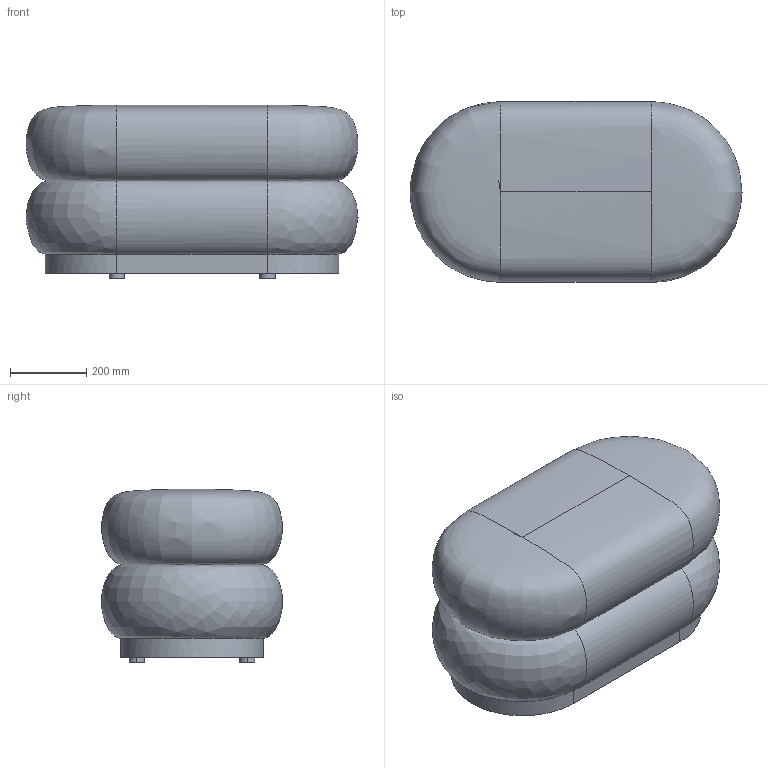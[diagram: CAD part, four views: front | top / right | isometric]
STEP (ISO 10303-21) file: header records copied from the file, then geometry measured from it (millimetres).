
FILE_DESCRIPTION(/* description */ (''),/* implementation_level */ '2;1');
FILE_NAME(/* name */ 'PHG2DT~2',/* time_stamp */ '2019-01-30T15:59:36+01:00',/* author */ (''),/* organization */ (''),/* preprocessor_version */ 'ST-DEVELOPER v15',/* originating_system */ '',/* authorisation */ '');
FILE_SCHEMA (('AUTOMOTIVE_DESIGN'));
Length unit declared in the file: millimetre
Products named in the file (1): Document
Bounding box: 870.33 x 474.27 x 455.56 mm (x, y, z)
Volume: 75589.7 mm3; surface area: 1673302.3 mm2
Topology: 4 solids, 5 shells, 32 faces, 67 edges, 36 vertices
Faces by surface type: bspline 32
Entity records: 2323 total; most frequent: CARTESIAN_POINT 1533, ORIENTED_EDGE 120, PCURVE 120, DEFINITIONAL_REPRESENTATION 120, B_SPLINE_CURVE_WITH_KNOTS 111, SURFACE_CURVE 63, EDGE_CURVE 63, VERTEX_POINT 36
